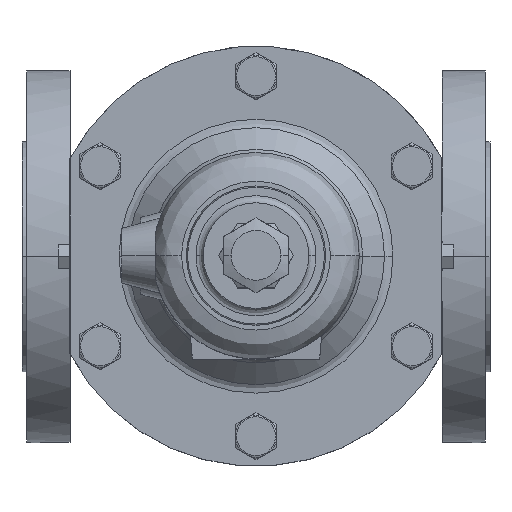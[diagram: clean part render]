
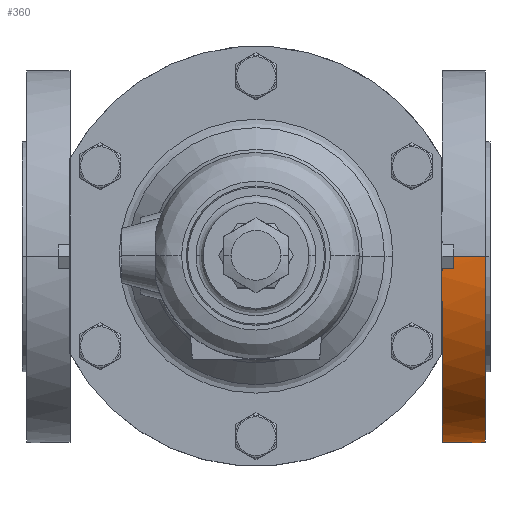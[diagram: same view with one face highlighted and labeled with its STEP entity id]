
A CAD part, top view. The second image highlights one B-rep face of the part: STEP entity #360.
In plain terms, the highlighted cylindrical face has radius 77.5 mm (diameter 155 mm), a partial arc.
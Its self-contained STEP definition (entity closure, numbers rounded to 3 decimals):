
#360=ADVANCED_FACE('',(#2801),#2800,.T.);
#2800=CYLINDRICAL_SURFACE('',#8833,77.5);
#2801=FACE_OUTER_BOUND('',#8834,.T.);
#8830=CARTESIAN_POINT('',(0.,0.,0.));
#8831=DIRECTION('',(1.,0.,0.));
#8832=DIRECTION('',(0.,0.,-1.));
#8833=AXIS2_PLACEMENT_3D('',#8830,#8831,#8832);
#8834=EDGE_LOOP('',(#12351,#12352,#12353,#12354,#12355));
#12351=ORIENTED_EDGE('',*,*,#14298,.F.);
#12352=ORIENTED_EDGE('',*,*,#13919,.F.);
#12353=ORIENTED_EDGE('',*,*,#14376,.T.);
#12354=ORIENTED_EDGE('',*,*,#14195,.T.);
#12355=ORIENTED_EDGE('',*,*,#14377,.F.);
#13919=EDGE_CURVE('',#16550,#16557,#16558,.T.);
#14195=EDGE_CURVE('',#18405,#18406,#18407,.T.);
#14298=EDGE_CURVE('',#16557,#19091,#19092,.T.);
#14376=EDGE_CURVE('',#16550,#18405,#19588,.T.);
#14377=EDGE_CURVE('',#19091,#18406,#19594,.T.);
#16550=VERTEX_POINT('',#25791);
#16557=VERTEX_POINT('',#25796);
#16558=CIRCLE('',#25800,77.5);
#18405=VERTEX_POINT('',#27829);
#18406=VERTEX_POINT('',#27830);
#18407=CIRCLE('',#27834,77.5);
#19091=VERTEX_POINT('',#28378);
#19092=CIRCLE('',#28382,77.5);
#19588=(BOUNDED_CURVE() B_SPLINE_CURVE(1,(#28892,#28893),.UNSPECIFIED.,.F.,.F.) B_SPLINE_CURVE_WITH_KNOTS((2,2),(0.083,0.917),.UNSPECIFIED.) CURVE() GEOMETRIC_REPRESENTATION_ITEM() RATIONAL_B_SPLINE_CURVE((1.,1.)) REPRESENTATION_ITEM('') );
#19594=(BOUNDED_CURVE() B_SPLINE_CURVE(1,(#28894,#28895),.UNSPECIFIED.,.F.,.F.) B_SPLINE_CURVE_WITH_KNOTS((2,2),(0.083,0.917),.UNSPECIFIED.) CURVE() GEOMETRIC_REPRESENTATION_ITEM() RATIONAL_B_SPLINE_CURVE((0.75,0.75)) REPRESENTATION_ITEM('') );
#25791=CARTESIAN_POINT('',(77.5,0.,-77.5));
#25796=CARTESIAN_POINT('',(77.5,-8.363,77.047));
#25797=CARTESIAN_POINT('',(77.5,0.,0.));
#25798=DIRECTION('',(-1.,0.,0.));
#25799=DIRECTION('',(0.,0.108,0.994));
#25800=AXIS2_PLACEMENT_3D('',#25797,#25798,#25799);
#27829=CARTESIAN_POINT('',(95.5,0.,-77.5));
#27830=CARTESIAN_POINT('',(95.5,0.,77.5));
#27831=CARTESIAN_POINT('',(95.5,0.,0.));
#27832=DIRECTION('',(-1.,0.,0.));
#27833=DIRECTION('',(0.,0.,1.));
#27834=AXIS2_PLACEMENT_3D('',#27831,#27832,#27833);
#28378=CARTESIAN_POINT('',(77.5,0.,77.5));
#28379=CARTESIAN_POINT('',(77.5,0.,0.));
#28380=DIRECTION('',(-1.,0.,0.));
#28381=DIRECTION('',(0.,0.,-1.));
#28382=AXIS2_PLACEMENT_3D('',#28379,#28380,#28381);
#28892=CARTESIAN_POINT('',(77.5,0.,-77.5));
#28893=CARTESIAN_POINT('',(95.5,0.,-77.5));
#28894=CARTESIAN_POINT('',(77.5,0.,77.5));
#28895=CARTESIAN_POINT('',(95.5,0.,77.5));
